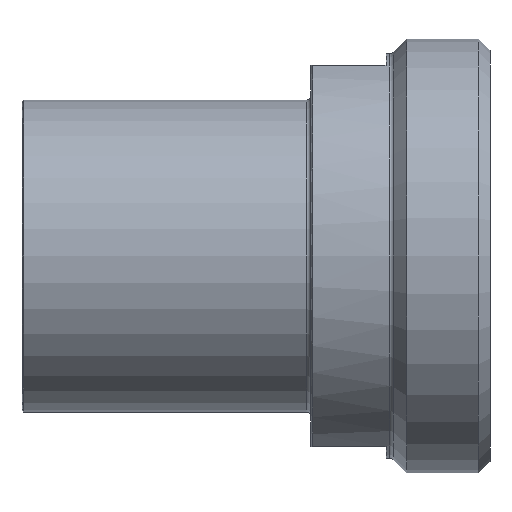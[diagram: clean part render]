
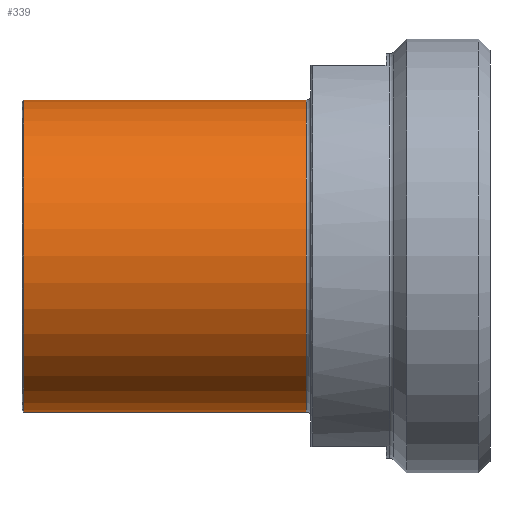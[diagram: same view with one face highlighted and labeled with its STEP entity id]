
A CAD part, front view. The second image highlights one B-rep face of the part: STEP entity #339.
In plain terms, the highlighted cylindrical face has radius 27 mm (diameter 54 mm), a full revolution.
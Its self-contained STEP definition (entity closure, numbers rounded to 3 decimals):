
#15=CYLINDRICAL_SURFACE('',#390,27.);
#39=CIRCLE('',#387,27.);
#41=CIRCLE('',#389,27.);
#42=CIRCLE('',#391,27.);
#43=CIRCLE('',#392,27.);
#68=FACE_OUTER_BOUND('',#89,.T.);
#89=EDGE_LOOP('',(#259,#260,#261,#262,#263,#264));
#111=LINE('',#595,#128);
#128=VECTOR('',#470,27.);
#155=VERTEX_POINT('',#588);
#156=VERTEX_POINT('',#589);
#157=VERTEX_POINT('',#594);
#158=VERTEX_POINT('',#596);
#194=EDGE_CURVE('',#155,#156,#39,.T.);
#196=EDGE_CURVE('',#156,#155,#41,.T.);
#197=EDGE_CURVE('',#155,#157,#111,.T.);
#198=EDGE_CURVE('',#158,#157,#42,.T.);
#199=EDGE_CURVE('',#157,#158,#43,.T.);
#259=ORIENTED_EDGE('',*,*,#194,.F.);
#260=ORIENTED_EDGE('',*,*,#197,.T.);
#261=ORIENTED_EDGE('',*,*,#198,.F.);
#262=ORIENTED_EDGE('',*,*,#199,.F.);
#263=ORIENTED_EDGE('',*,*,#197,.F.);
#264=ORIENTED_EDGE('',*,*,#196,.F.);
#339=ADVANCED_FACE('',(#68),#15,.T.);
#387=AXIS2_PLACEMENT_3D('',#590,#462,#463);
#389=AXIS2_PLACEMENT_3D('',#592,#466,#467);
#390=AXIS2_PLACEMENT_3D('',#593,#468,#469);
#391=AXIS2_PLACEMENT_3D('',#597,#471,#472);
#392=AXIS2_PLACEMENT_3D('',#598,#473,#474);
#462=DIRECTION('center_axis',(1.,0.,0.));
#463=DIRECTION('ref_axis',(0.,-1.,0.));
#466=DIRECTION('center_axis',(1.,0.,0.));
#467=DIRECTION('ref_axis',(0.,-1.,0.));
#468=DIRECTION('center_axis',(1.,0.,0.));
#469=DIRECTION('ref_axis',(0.,1.,0.));
#470=DIRECTION('',(-1.,0.,0.));
#471=DIRECTION('center_axis',(-1.,0.,0.));
#472=DIRECTION('ref_axis',(0.,-1.,0.));
#473=DIRECTION('center_axis',(-1.,0.,0.));
#474=DIRECTION('ref_axis',(0.,-1.,0.));
#588=CARTESIAN_POINT('',(-31.8,-27.,0.));
#589=CARTESIAN_POINT('',(-31.8,0.,27.));
#590=CARTESIAN_POINT('Origin',(-31.8,0.,0.));
#592=CARTESIAN_POINT('Origin',(-31.8,0.,0.));
#593=CARTESIAN_POINT('Origin',(-56.,0.,0.));
#594=CARTESIAN_POINT('',(-80.7,-27.,0.));
#595=CARTESIAN_POINT('',(-56.,-27.,0.));
#596=CARTESIAN_POINT('',(-80.7,27.,0.));
#597=CARTESIAN_POINT('Origin',(-80.7,0.,0.));
#598=CARTESIAN_POINT('Origin',(-80.7,0.,0.));
